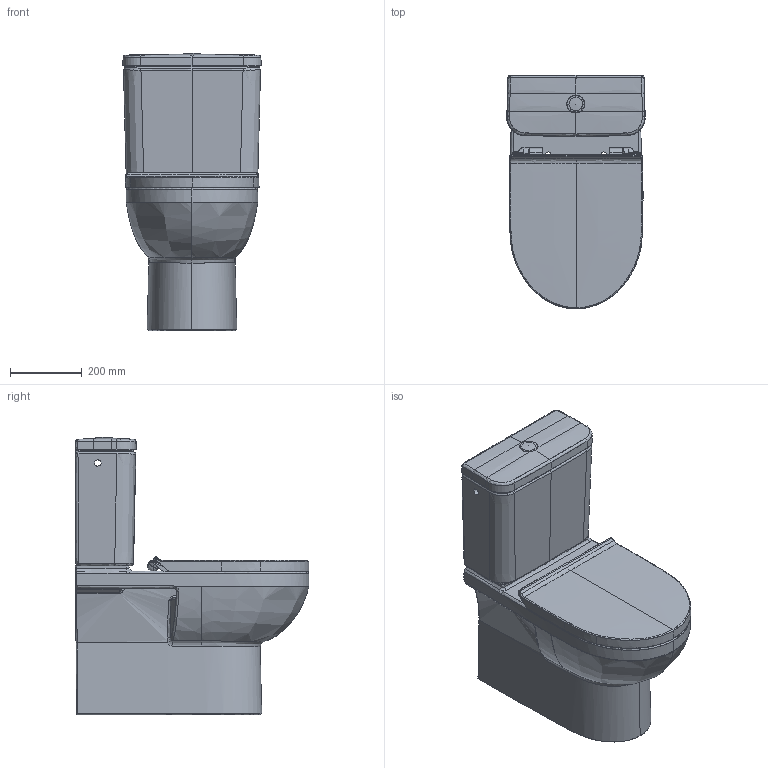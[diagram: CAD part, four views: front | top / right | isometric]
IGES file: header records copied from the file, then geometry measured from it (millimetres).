
Global section: file name: D:\Planungsdaten\CAD-News_2018\Keramik\DuraStyle_Basic\218209\Output\218209.igs; native system: Rhinoceros ( Sep 13 2016 ); preprocessor: Trout Lake IGES 012 Sep 13 2016; date: 180705.131349; units: millimetre
Bounding box: 385.52 x 650.73 x 772.94 mm (x, y, z)
Surface area: 3169843 mm2 (no closed solid volume)
Topology: 0 solids, 0 shells, 1576 faces, 28585 edges, 28556 vertices
Faces by surface type: bspline 1576
